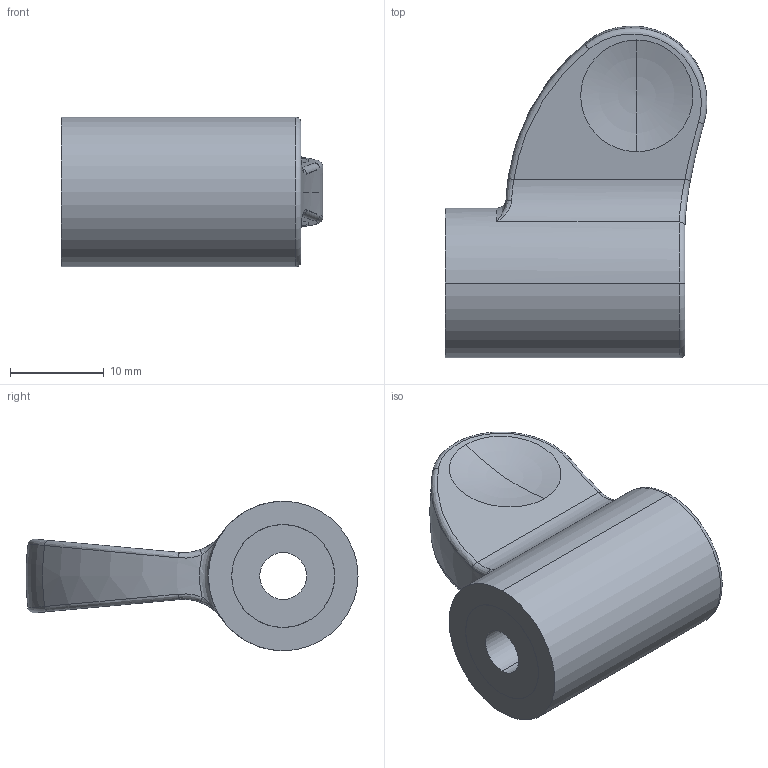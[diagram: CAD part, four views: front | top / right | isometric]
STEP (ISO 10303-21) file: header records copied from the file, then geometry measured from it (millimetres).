
FILE_DESCRIPTION (( 'STEP AP214' ), '1' );
FILE_NAME ('635-27,5-M6-D.step', '2020-06-24T11:09:38', ( '' ), ( '' ), 'SwSTEP 2.0', 'SolidWorks 2019', '' );
FILE_SCHEMA (( 'AUTOMOTIVE_DESIGN' ));
Length unit declared in the file: millimetre
Products named in the file (1): 635-27,5-M6-D
Bounding box: 28 x 35.5 x 16 mm (x, y, z)
Volume: 5984.1 mm3; surface area: 3045.5 mm2
Topology: 1 solids, 1 shells, 48 faces, 115 edges, 68 vertices
Faces by surface type: cylinder 15, torus 14, bspline 10, plane 7, sphere 2
Entity records: 2134 total; most frequent: CARTESIAN_POINT 980, DIRECTION 235, ORIENTED_EDGE 218, AXIS2_PLACEMENT_3D 109, EDGE_CURVE 109, CIRCLE 70, VERTEX_POINT 68, EDGE_LOOP 55
